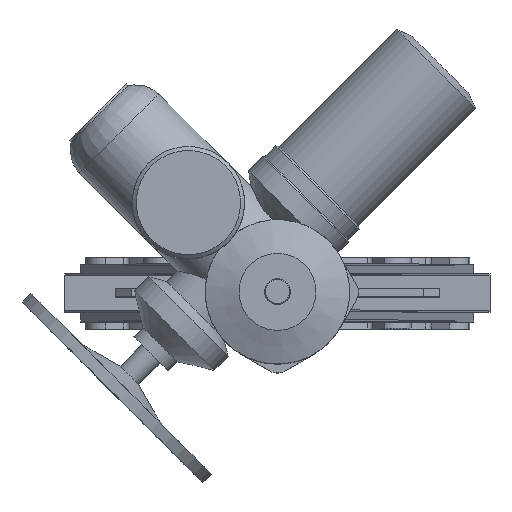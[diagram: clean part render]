
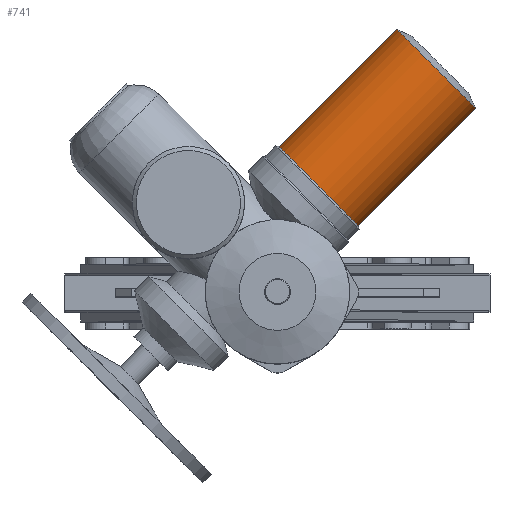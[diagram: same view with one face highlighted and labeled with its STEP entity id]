
A CAD part, top view. The second image highlights one B-rep face of the part: STEP entity #741.
In plain terms, the highlighted cylindrical face has radius 70 mm (diameter 140 mm), a full revolution.
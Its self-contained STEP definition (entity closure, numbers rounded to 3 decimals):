
#741=ADVANCED_FACE('',(#3813,#3815),#3817,.T.);
#3813=FACE_OUTER_BOUND('',#3814,.T.);
#3814=EDGE_LOOP('',(#6225));
#3815=FACE_OUTER_BOUND('',#3816,.T.);
#3816=EDGE_LOOP('',(#6226));
#3817=CYLINDRICAL_SURFACE('',#3818,70.);
#3818=AXIS2_PLACEMENT_3D('',#3819,#3820,#3821);
#3819=CARTESIAN_POINT('',(197.792,278.403,1117.));
#3820=DIRECTION('',(-0.707,-0.707,0.));
#3821=DIRECTION('',(0.,0.,1.));
#6225=ORIENTED_EDGE('',*,*,#7842,.T.);
#6226=ORIENTED_EDGE('',*,*,#7803,.F.);
#7803=EDGE_CURVE('',#8806,#8806,#8807,.T.);
#7842=EDGE_CURVE('',#8876,#8876,#8877,.T.);
#8806=VERTEX_POINT('',#11586);
#8807=CIRCLE('',#11587,70.);
#8876=VERTEX_POINT('',#11741);
#8877=CIRCLE('',#11742,70.);
#11586=CARTESIAN_POINT('',(51.482,132.093,1187.));
#11587=AXIS2_PLACEMENT_3D('',#11588,#11589,#11590);
#11588=CARTESIAN_POINT('',(51.482,132.093,1117.));
#11589=DIRECTION('',(-0.707,-0.707,0.));
#11590=DIRECTION('',(0.,0.,1.));
#11741=CARTESIAN_POINT('',(197.792,278.403,1187.));
#11742=AXIS2_PLACEMENT_3D('',#11743,#11744,#11745);
#11743=CARTESIAN_POINT('',(197.792,278.403,1117.));
#11744=DIRECTION('',(-0.707,-0.707,0.));
#11745=DIRECTION('',(0.,0.,1.));
